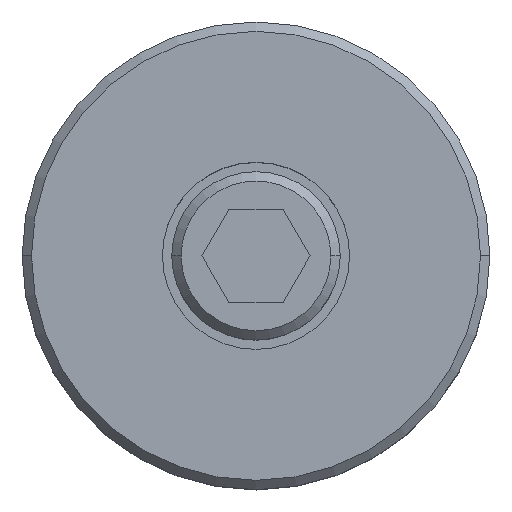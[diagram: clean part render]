
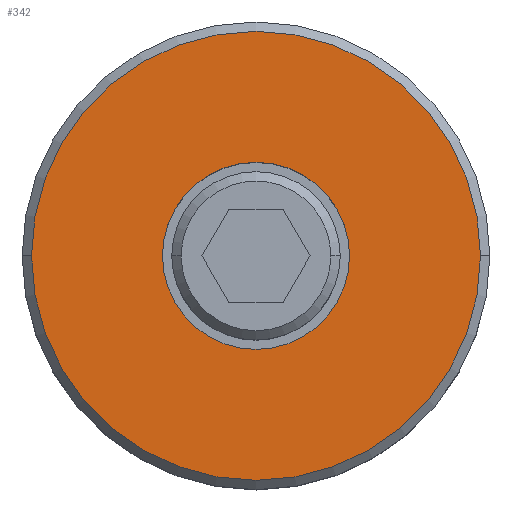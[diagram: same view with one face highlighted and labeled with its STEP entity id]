
A CAD part, top view. The second image highlights one B-rep face of the part: STEP entity #342.
In plain terms, the highlighted planar face has unit normal (0, 0, 1).
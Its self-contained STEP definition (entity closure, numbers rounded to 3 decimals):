
#101=VERTEX_POINT(' ',#102);
#102=CARTESIAN_POINT('',(-10.,0.,20.));
#103=VERTEX_POINT(' ',#104);
#104=CARTESIAN_POINT('',(10.,0.,20.));
#105=VERTEX_POINT(' ',#106);
#106=CARTESIAN_POINT('',(-24.,0.,20.));
#107=VERTEX_POINT(' ',#108);
#108=CARTESIAN_POINT('',(24.,0.,20.));
#172=CIRCLE('',#173,10.);
#173=AXIS2_PLACEMENT_3D('',#174,#175,#176);
#174=CARTESIAN_POINT('',(0.,0.,20.));
#175=DIRECTION('',(0.,0.,-1.));
#176=DIRECTION('',(0.,1.,0.));
#177=EDGE_CURVE(' ',#103,#101,#172,.T.);
#183=CIRCLE('',#184,10.);
#184=AXIS2_PLACEMENT_3D('',#185,#186,#187);
#185=CARTESIAN_POINT('',(0.,0.,20.));
#186=DIRECTION('',(0.,0.,-1.));
#187=DIRECTION('',(0.,-1.,0.));
#188=EDGE_CURVE(' ',#101,#103,#183,.T.);
#189=CIRCLE('',#190,24.);
#190=AXIS2_PLACEMENT_3D('',#191,#192,#193);
#191=CARTESIAN_POINT('',(0.,0.,20.));
#192=DIRECTION('',(0.,0.,-1.));
#193=DIRECTION('',(0.,1.,0.));
#194=EDGE_CURVE(' ',#107,#105,#189,.T.);
#195=CIRCLE('',#196,24.);
#196=AXIS2_PLACEMENT_3D('',#197,#198,#199);
#197=CARTESIAN_POINT('',(0.,0.,20.));
#198=DIRECTION('',(0.,0.,-1.));
#199=DIRECTION('',(0.,-1.,0.));
#200=EDGE_CURVE(' ',#105,#107,#195,.T.);
#329=ORIENTED_EDGE('',*,*,#194,.F.);
#330=ORIENTED_EDGE('',*,*,#200,.F.);
#331=EDGE_LOOP('',(#329,#330));
#332=FACE_OUTER_BOUND('',#331,.T.);
#333=ORIENTED_EDGE('',*,*,#188,.T.);
#334=ORIENTED_EDGE('',*,*,#177,.T.);
#335=EDGE_LOOP('',(#333,#334));
#336=FACE_BOUND('',#335,.T.);
#337=PLANE('',#338);
#338=AXIS2_PLACEMENT_3D('',#339,#340,#341);
#339=CARTESIAN_POINT('',(0.,0.,20.));
#340=DIRECTION('',(0.,0.,1.));
#341=DIRECTION('',(0.,1.,0.));
#342=ADVANCED_FACE('',(#332,#336),#337,.T.);
